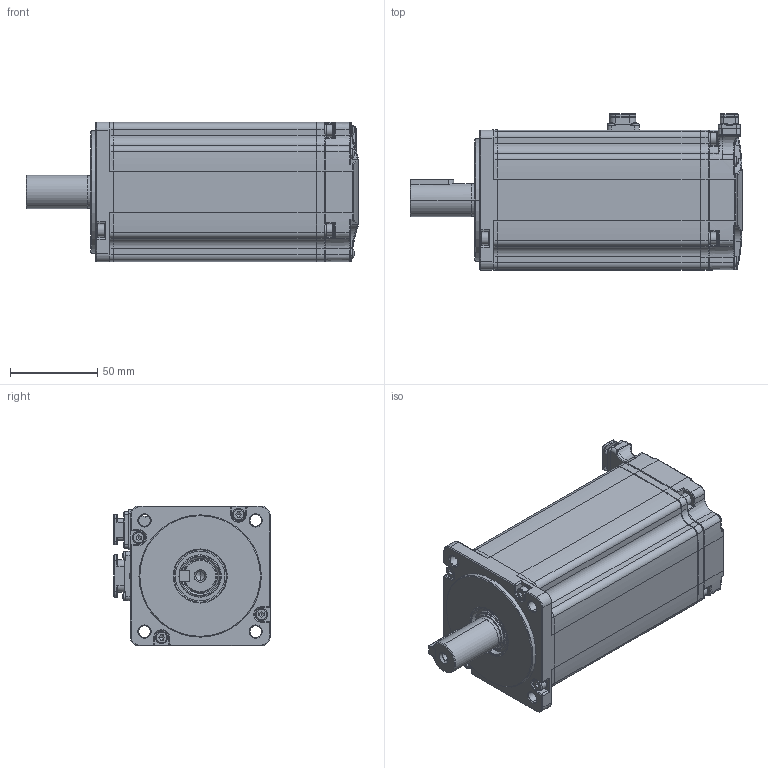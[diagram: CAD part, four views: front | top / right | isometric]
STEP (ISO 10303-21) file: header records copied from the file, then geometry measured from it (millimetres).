
FILE_DESCRIPTION (( 'STEP AP203' ), '1' );
FILE_NAME ('EM3J-10ALA243.STEP', '2022-10-27T09:29:33', ( 'USER' ), ( '' ), 'SwSTEP 2.0', 'SolidWorks 2018', '' );
FILE_SCHEMA (( 'CONFIG_CONTROL_DESIGN' ));
Products named in the file (1): EM3J-10ALA243
Bounding box: 190 x 89.3 x 80 mm (x, y, z)
Volume: 777595.1 mm3; surface area: 154810.8 mm2
Topology: 17 solids, 21 shells, 2775 faces, 7139 edges, 4461 vertices
Faces by surface type: plane 1221, cylinder 817, cone 315, torus 230, bspline 143, sphere 49
Entity records: 94622 total; most frequent: CARTESIAN_POINT 27425, ORIENTED_EDGE 14178, DIRECTION 14108, EDGE_CURVE 7089, AXIS2_PLACEMENT_3D 5178, VERTEX_POINT 4461, VECTOR 3752, LINE 3752
